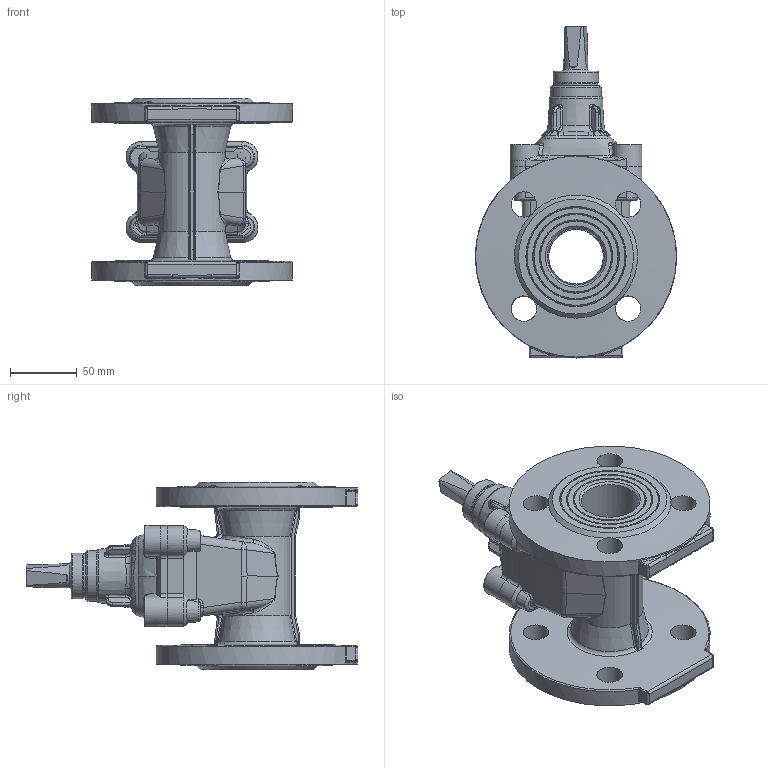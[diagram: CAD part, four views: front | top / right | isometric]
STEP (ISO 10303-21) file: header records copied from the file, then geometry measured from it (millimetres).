
FILE_DESCRIPTION(/* description */ (''),/* implementation_level */ '2;1');
FILE_NAME(/* name */ 'F4-DN40PN16.stp',/* time_stamp */ '2024-08-01T08:11:00+07:00',/* author */ ('Eva'),/* organization */ (''),/* preprocessor_version */ 'ST-DEVELOPER v20',/* originating_system */ 'Autodesk Inventor 2025',/* authorisation */ '');
FILE_SCHEMA (('AUTOMOTIVE_DESIGN { 1 0 10303 214 3 1 1 }'));
Products named in the file (9): F4-DN40PN16; ·§ёЛ DN50PN16(YZ45X02302-04-00 ); ЧФГЬ·вИ¦ DN50PN16(Z45X
02302-25-00 ); Ц№НЖВЭДё DN50PN16(YZ45
X02302-09-00 ); ·АіѕГЬ·вИ¦ DN50
PN16(YZ45X02302-10-00 NBR); M10 ДЪБщЅЗФІЦщН·ВЭ¶¤ 
GB T 70.1-2000(M10ЎБ20); Бгјю14; Бгјю14_1; Бгјю13
Assembly tree (11 placements, depth 2):
  F4-DN40PN16
    ·§ёЛ DN50PN16(YZ45X02302-04-00 )
    ЧФГЬ·вИ¦ DN50PN16(Z45X
02302-25-00 )
    Ц№НЖВЭДё DN50PN16(YZ45
X02302-09-00 )
    ·АіѕГЬ·вИ¦ DN50
PN16(YZ45X02302-10-00 NBR)
    M10 ДЪБщЅЗФІЦщН·ВЭ¶¤ 
GB T 70.1-2000(M10ЎБ20)  x4
    Бгјю14
    Бгјю14_1
    Бгјю13
Bounding box: 150 x 247.69 x 140 mm (x, y, z)
Volume: 685751.7 mm3; surface area: 197998.7 mm2
Topology: 9 solids, 11 shells, 974 faces, 2423 edges, 1443 vertices
Faces by surface type: bspline 346, plane 236, cylinder 203, torus 84, cone 79, sphere 26
Full cylindrical faces by diameter (mm): 6.8 x1, 8.5 x4, 10 x5, 16.27 x4, 18 x1, 18.5 x1, 19 x9, 20.381 x1, 25 x1, 27.83 x1, 30 x1, 33 x1, 34 x1, 37.6 x1, 40.8 x1, 42.713 x1, 150 x2
Entity records: 56658 total; most frequent: CARTESIAN_POINT 36080, ORIENTED_EDGE 4522, DIRECTION 3473, EDGE_CURVE 2261, AXIS2_PLACEMENT_3D 1466, VERTEX_POINT 1371, EDGE_LOOP 968, FACE_OUTER_BOUND 920
